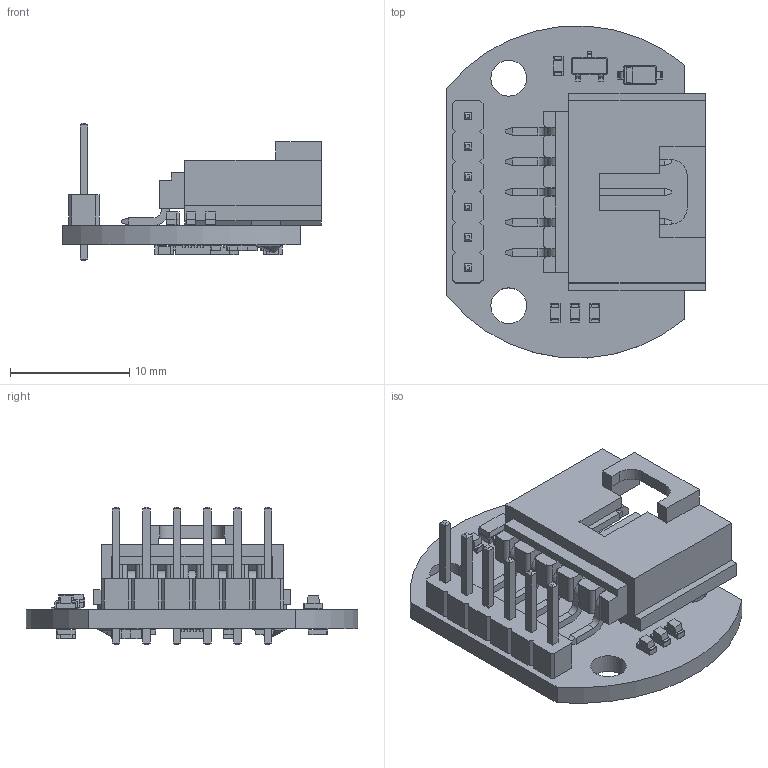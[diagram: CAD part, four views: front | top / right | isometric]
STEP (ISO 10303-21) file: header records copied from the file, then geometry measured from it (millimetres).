
FILE_DESCRIPTION(('KiCad electronic assembly'),'2;1');
FILE_NAME('mag-encoder.step','2024-11-25T19:02:07',('Pcbnew'),('Kicad'), 'Open CASCADE STEP processor 7.6','KiCad to STEP converter','Unknown' );
FILE_SCHEMA(('AUTOMOTIVE_DESIGN { 1 0 10303 214 1 1 1 1 }'));
Length unit declared in the file: millimetre
Products named in the file (20): mag-encoder 1; LED_0603_1608Metric; SOT-23; SOT_23; Molex-015912055; 015912055; PinHeader_1x06_P2.54mm_Vertical; PinHeader_1x06_P254mm_Vertical; D_SOD-123; D_SOD_123; R_0603_1608Metric; C_0603_1608Metric; BQA0014A; BQA0014A_ASM; QFN-16-1EP_3x3mm_P0.5mm_EP1.7x1.7mm; mag-encoder_PCB
Assembly tree (33 placements, depth 3):
  mag-encoder 1
    LED_0603_1608Metric  x4
      LED_0603_1608Metric
    SOT-23
      SOT_23
    Molex-015912055
      015912055
    PinHeader_1x06_P2.54mm_Vertical
      PinHeader_1x06_P254mm_Vertical
    D_SOD-123
      D_SOD_123
    R_0603_1608Metric  x8
      R_0603_1608Metric
    C_0603_1608Metric  x5
      C_0603_1608Metric
    BQA0014A
      BQA0014A_ASM
    QFN-16-1EP_3x3mm_P0.5mm_EP1.7x1.7mm
      QFN-16-1EP_3x3mm_P0.5mm_EP1.7x1.7mm
    mag-encoder_PCB
Bounding box: 21.65 x 27.79 x 11.54 mm (x, y, z)
Volume: 1505.7 mm3; surface area: 2951.8 mm2
Topology: 44 solids, 44 shells, 1432 faces, 3736 edges, 2444 vertices
Faces by surface type: plane 1089, cylinder 288, bspline 55
Full cylindrical faces by diameter (mm): 0.2 x1, 1 x6, 3 x2, 3.4 x2
Entity records: 33907 total; most frequent: CARTESIAN_POINT 5686, ORIENTED_EDGE 5090, DIRECTION 4741, EDGE_CURVE 2545, LINE 2179, VECTOR 2179, VERTEX_POINT 1630, AXIS2_PLACEMENT_3D 1281
